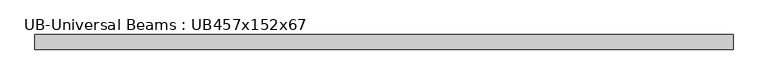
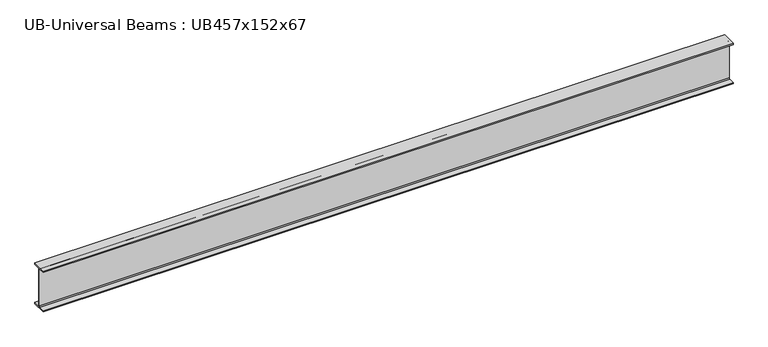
"""IFC4 building model written with IfcOpenShell, lengths in millimetres: beam geometry, UB-Universal Beams : UB457x152x67."""

from ifc_helpers import new_model, si_unit, point, frame, frame_2d, origin, place, context, project, spatial, polyline, circle_curve, trimmed, segment, composite_curve, outline, extrude, source, transform, mapped, element, save


def ub_universal_beams_ub457x152x67_b2398499(model_context):
    return source(origin(), model_context, "Body", "SweptSolid", [
        extrude(outline(composite_curve([segment(polyline([(76.9, -214.0), (76.9, -229.0), (-76.9, -229.0), (-76.9, -214.0), (-14.7, -214.0)]), True, "CONTINUOUS"), segment(trimmed(circle_curve(frame_2d((-14.7, -203.8)), 10.2), [point((-14.7, -214.0))], [point((-4.5, -203.8))], True, "CARTESIAN"), True, "CONTINUOUS"), segment(polyline([(-4.5, -203.8), (-4.5, 203.8)]), True, "CONTINUOUS"), segment(trimmed(circle_curve(frame_2d((-14.7, 203.8)), 10.2), [point((-4.5, 203.8))], [point((-14.7, 214.0))], True, "CARTESIAN"), True, "CONTINUOUS"), segment(polyline([(-14.7, 214.0), (-76.9, 214.0), (-76.9, 229.0), (76.9, 229.0), (76.9, 214.0), (14.7, 214.0)]), True, "CONTINUOUS"), segment(trimmed(circle_curve(frame_2d((14.7, 203.8)), 10.2), [point((14.7, 214.0))], [point((4.5, 203.8))], True, "CARTESIAN"), True, "CONTINUOUS"), segment(polyline([(4.5, 203.8), (4.5, -203.8)]), True, "CONTINUOUS"), segment(trimmed(circle_curve(frame_2d((14.7, -203.8)), 10.2), [point((4.5, -203.8))], [point((14.7, -214.0))], True, "CARTESIAN"), True, "CONTINUOUS"), segment(polyline([(14.7, -214.0), (76.9, -214.0)]), True, "CONTINUOUS")], self_intersect=False)), frame((-3645.7, 0.0, 0.0), z_axis=(1.0, 0.0, 0.0), x_axis=(0.0, 1.0, 0.0)), (0.0, 0.0, 1.0), 7329.3),
    ])


if __name__ == "__main__":
    model = new_model("IFC4")
    model_context = context("Model", 3, world=origin())
    ifc_project = project(units=[si_unit("LENGTHUNIT", "METRE", prefix="MILLI")], contexts=[model_context])
    site = spatial("IfcSite", under=ifc_project)
    building = spatial("IfcBuilding", under=site)
    placement = place(None, origin())
    ub_universal_beams_ub457x152x67_shape = ub_universal_beams_ub457x152x67_b2398499(model_context)
    element("IfcBeam", 1, ObjectType="UB-Universal Beams : UB457x152x67", at=placement, inside=building, context=model_context, shape_type="MappedRepresentation", body=[
        mapped(ub_universal_beams_ub457x152x67_shape, transform((0.0, 0.0, 0.0), x_axis=(1.0, 0.0, 0.0), y_axis=(0.0, 1.0, 0.0), z_axis=(0.0, 0.0, 1.0))),
    ])
    save(model, "model.ifc")
